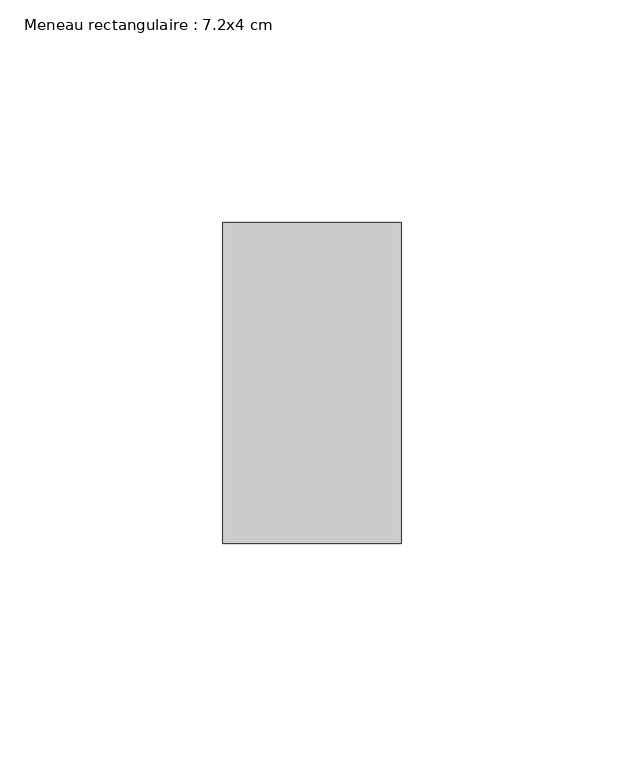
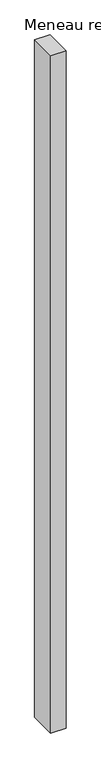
"""IFC4 building model written with IfcOpenShell, lengths in millimetres: member geometry, Meneau rectangulaire : 7.2x4 cm."""

import ifcopenshell
import ifcopenshell.guid

model = None  # the IFC model being written
_history = None  # IfcOwnerHistory: only IFC2X3 demands one
_inside = {}  # id of a spatial element -> (the spatial element, [elements in it])
_under = {}  # id of a project, library or spatial element -> (it, [spatial elements below it])
_declared = {}  # id of a project -> (the project, [libraries it declares])
_typed = {}  # id of a type object -> (the type object, [elements of that type])
_made_of = {}  # id of a material, layer set ... -> (it, [elements and type objects made of it])


def new_model(schema):
    """Start an empty IFC model of exactly this schema.

    Asked for "IFC4X3", IfcOpenShell would pick the latest addendum, in which some entities
    have other attributes; the version numbers below select the first issue.
    IFC2X3 requires an IfcOwnerHistory on every rooted entity: one is made here for all.
    """
    global model, _history
    if schema == "IFC4X3":
        model = ifcopenshell.file(schema_version=(4, 3, 0, 0))
    else:
        model = ifcopenshell.file(schema=schema)
    _inside.clear()
    _under.clear()
    _declared.clear()
    _typed.clear()
    _made_of.clear()
    _history = None
    if model.schema == "IFC2X3":
        org = make("IfcOrganization", Name="unknown")
        user = make(
            "IfcPersonAndOrganization",
            ThePerson=make("IfcPerson", FamilyName="unknown"),
            TheOrganization=org,
        )
        app = make(
            "IfcApplication",
            ApplicationDeveloper=org,
            Version="unknown",
            ApplicationFullName="unknown",
            ApplicationIdentifier="unknown",
        )
        _history = make(
            "IfcOwnerHistory",
            OwningUser=user,
            OwningApplication=app,
            ChangeAction="ADDED",
            CreationDate=0,
        )
    return model


def make(cls, **values):
    """One entity of the class cls with the attributes given. An attribute that is None is left unset."""
    return model.create_entity(
        cls, **{name: value for name, value in values.items() if value is not None}
    )


def rooted(cls, **values):
    """An entity with a GlobalId (a new one), such as an element, a storey or a relation."""
    return make(cls, GlobalId=ifcopenshell.guid.new(), OwnerHistory=_history, **values)


def si_unit(unit_type, name, prefix=None):
    """IfcSIUnit, for example si_unit("LENGTHUNIT", "METRE", prefix="MILLI")."""
    return make("IfcSIUnit", UnitType=unit_type, Prefix=prefix, Name=name)


def assignment(units):
    """IfcUnitAssignment: the units of a project."""
    return None if units is None else make("IfcUnitAssignment", Units=units)


def point(xyz):
    """IfcCartesianPoint."""
    return None if xyz is None else make("IfcCartesianPoint", Coordinates=xyz)


def direction(xyz):
    """IfcDirection."""
    return None if xyz is None else make("IfcDirection", DirectionRatios=xyz)


def frame(location, z_axis=None, x_axis=None):
    """IfcAxis2Placement3D, a coordinate frame: its origin and axes. An axis left out is left unset."""
    return make(
        "IfcAxis2Placement3D",
        Location=point(location),
        Axis=direction(z_axis),
        RefDirection=direction(x_axis),
    )


def origin():
    """The frame at (0, 0, 0) with its axes left unset."""
    return frame((0.0, 0.0, 0.0))


def place(relative_to, where):
    """IfcLocalPlacement: puts the frame where relative to a parent placement (None: the world)."""
    return make(
        "IfcLocalPlacement", PlacementRelTo=relative_to, RelativePlacement=where
    )


def context(
    kind, dimensions, precision=None, world=None, true_north=None, identifier=None
):
    """IfcGeometricRepresentationContext, for example the 3D "Model" context."""
    return make(
        "IfcGeometricRepresentationContext",
        ContextIdentifier=identifier,
        ContextType=kind,
        CoordinateSpaceDimension=dimensions,
        Precision=precision,
        WorldCoordinateSystem=world,
        TrueNorth=true_north,
    )


def project(units=None, contexts=None):
    """IfcProject with its units and contexts."""
    return rooted(
        "IfcProject",
        Name="project",
        RepresentationContexts=contexts,
        UnitsInContext=assignment(units),
    )


def spatial(cls, under=None, at=None, **own):
    """A site, building, storey or space (cls), placed at a placement, below another one or the project."""
    s = rooted(cls, ObjectPlacement=at, **own)
    if under is not None:
        _under.setdefault(under.id(), (under, []))[1].append(s)
    return s


def polyline(points):
    """IfcPolyline through the points."""
    return make("IfcPolyline", Points=[point(p) for p in points])


def outline(outer, holes=None, kind="AREA"):
    """IfcArbitraryClosedProfileDef: a profile drawn as a closed curve; with holes, ...WithVoids."""
    if holes is None:
        return make("IfcArbitraryClosedProfileDef", ProfileType=kind, OuterCurve=outer)
    return make(
        "IfcArbitraryProfileDefWithVoids",
        ProfileType=kind,
        OuterCurve=outer,
        InnerCurves=holes,
    )


def extrude(swept, where, along, depth):
    """IfcExtrudedAreaSolid: the profile swept, set in the frame where, extruded along a direction by depth."""
    return make(
        "IfcExtrudedAreaSolid",
        SweptArea=swept,
        Position=where,
        ExtrudedDirection=direction(along),
        Depth=depth,
    )


def shape(context_of_items, identifier, shape_type, items):
    """IfcShapeRepresentation: the items that make up one representation, for example the "Body"."""
    return make(
        "IfcShapeRepresentation",
        ContextOfItems=context_of_items,
        RepresentationIdentifier=identifier,
        RepresentationType=shape_type,
        Items=items,
    )


def source(mapping_origin, context_of_items, identifier, shape_type, items):
    """IfcRepresentationMap: a shape defined once, which mapped items show again and again."""
    return make(
        "IfcRepresentationMap",
        MappingOrigin=mapping_origin,
        MappedRepresentation=shape(context_of_items, identifier, shape_type, items),
    )


def transform(
    local_origin,
    x_axis=None,
    y_axis=None,
    z_axis=None,
    scale=None,
    scale2=None,
    scale3=None,
    uniform=True,
):
    """IfcCartesianTransformationOperator3D, or its non-uniform kind. x_axis, y_axis, z_axis: its Axis1, 2, 3."""
    if uniform:
        return make(
            "IfcCartesianTransformationOperator3D",
            Axis1=direction(x_axis),
            Axis2=direction(y_axis),
            LocalOrigin=point(local_origin),
            Scale=scale,
            Axis3=direction(z_axis),
        )
    return make(
        "IfcCartesianTransformationOperator3DnonUniform",
        Axis1=direction(x_axis),
        Axis2=direction(y_axis),
        LocalOrigin=point(local_origin),
        Scale=scale,
        Axis3=direction(z_axis),
        Scale2=scale2,
        Scale3=scale3,
    )


def mapped(mapping_source, mapping_target):
    """IfcMappedItem: shows the shape of a source again, moved by a transform."""
    return make(
        "IfcMappedItem", MappingSource=mapping_source, MappingTarget=mapping_target
    )


def made_of(thing, what):
    """Note that an element or type object is made of a material, layer set ...; save() writes the relation."""
    if what is not None:
        _made_of.setdefault(what.id(), (what, []))[1].append(thing)
    return thing


def element(
    cls,
    number,
    at=None,
    inside=None,
    cuts=None,
    type_object=None,
    material=None,
    context=None,
    identifier="Body",
    shape_type=None,
    held_by="IfcProductDefinitionShape",
    body=None,
    shapes=None,
    **own,
):
    """One element of the class cls, such as IfcWall. Its Tag is "e" and its number.

    at: its placement. inside: the storey or other place that contains it. cuts: it is an
    opening in that element (IfcRelVoidsElement). A single representation is given by context,
    identifier, shape_type and body (its items); several are given by shapes. held_by: the class
    of the entity that holds the representations. save() writes the other relations.
    """
    e = rooted(cls, Tag="e%d" % number, ObjectPlacement=at, **own)
    if body is not None:
        shapes = [shape(context, identifier, shape_type, body)]
    if shapes is not None:
        e.Representation = make(held_by, Representations=shapes)
    if inside is not None:
        _inside.setdefault(inside.id(), (inside, []))[1].append(e)
    if cuts is not None:
        rooted(
            "IfcRelVoidsElement", RelatingBuildingElement=cuts, RelatedOpeningElement=e
        )
    if type_object is not None:
        _typed.setdefault(type_object.id(), (type_object, []))[1].append(e)
    return made_of(e, material)


def aggregate(whole, parts):
    """IfcRelAggregates: a whole, such as a stair, and the parts it consists of."""
    return rooted("IfcRelAggregates", RelatingObject=whole, RelatedObjects=parts)


def save(model, path):
    """Write the relations noted so far, then the file.

    IfcRelAggregates (storeys below a building ...), IfcRelContainedInSpatialStructure (elements
    in a storey), IfcRelDefinesByType, IfcRelAssociatesMaterial and IfcRelDeclares: one each for
    every whole, place, type object, material and project.
    """
    for whole, parts in _under.values():
        aggregate(whole, parts)
    for where, things in _inside.values():
        rooted(
            "IfcRelContainedInSpatialStructure",
            RelatedElements=things,
            RelatingStructure=where,
        )
    for kind, things in _typed.values():
        rooted("IfcRelDefinesByType", RelatedObjects=things, RelatingType=kind)
    for what, things in _made_of.values():
        rooted("IfcRelAssociatesMaterial", RelatedObjects=things, RelatingMaterial=what)
    for by, libraries in _declared.values():
        rooted("IfcRelDeclares", RelatingContext=by, RelatedDefinitions=libraries)
    model.write(path)


def meneau_rectangulaire_7_2x4_cm_e100efc8(model_context):
    return source(origin(), model_context, "Body", "SweptSolid", [
        extrude(outline(polyline([(0.0, 36.0), (0.0, -36.0), (-40.0, -36.0), (-40.0, 36.0), (0.0, 36.0)])), frame((0.0, 0.0, -1869.0), z_axis=(0.0, 0.0, 1.0), x_axis=(1.0, 0.0, 0.0)), (0.0, 0.0, 1.0), 1869.0),
    ])


if __name__ == "__main__":
    model = new_model("IFC4")
    model_context = context("Model", 3, world=origin())
    ifc_project = project(units=[si_unit("LENGTHUNIT", "METRE", prefix="MILLI")], contexts=[model_context])
    site = spatial("IfcSite", under=ifc_project)
    building = spatial("IfcBuilding", under=site)
    placement = place(None, origin())
    meneau_rectangulaire_7_2x4_cm_shape = meneau_rectangulaire_7_2x4_cm_e100efc8(model_context)
    element("IfcMember", 1, ObjectType="Meneau rectangulaire : 7.2x4 cm", at=placement, inside=building, context=model_context, shape_type="MappedRepresentation", body=[
        mapped(meneau_rectangulaire_7_2x4_cm_shape, transform((0.0, 0.0, 0.0), x_axis=(1.0, 0.0, 0.0), y_axis=(0.0, 1.0, 0.0), z_axis=(0.0, 0.0, 1.0))),
    ])
    save(model, "model.ifc")
